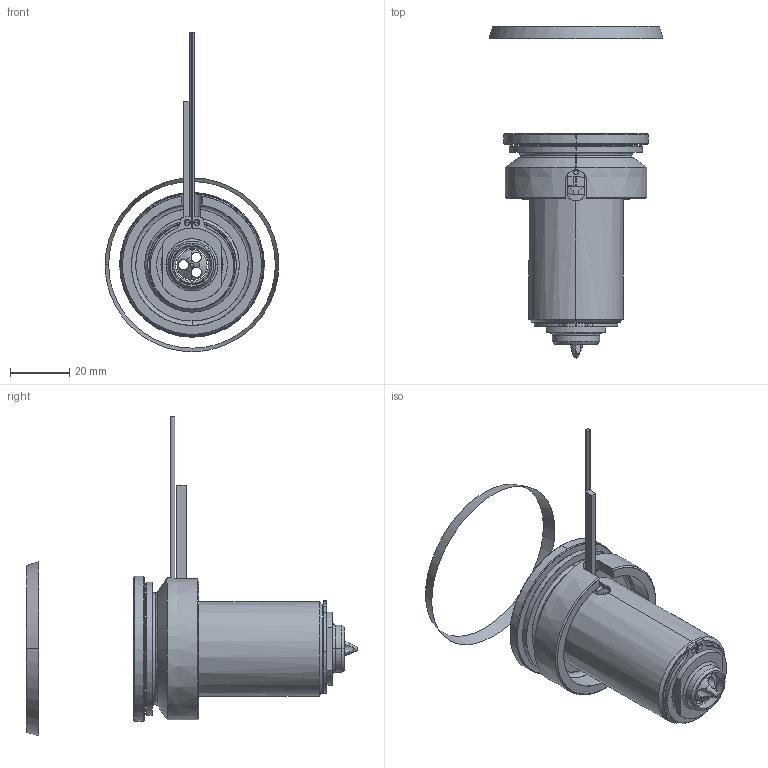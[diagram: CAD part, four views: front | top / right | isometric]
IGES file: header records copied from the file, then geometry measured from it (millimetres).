
Start section: SolidWorks IGES file using analytic representation for surfaces
Global section: file name: C:\Documents and Settings\ws-20\Desktop\TEM\UGEP5001-S-A-0 [Øf-1.18 ØC-12].IGS; native system: SolidWorks 2012; preprocessor: SolidWorks 2012; author: ws-20; date: 120426.095956; units: millimetre
Bounding box: 58.79 x 112.24 x 108.04 mm (x, y, z)
Surface area: 31808.8 mm2 (no closed solid volume)
Topology: 0 solids, 0 shells, 127 faces, 2443 edges, 2443 vertices
Faces by surface type: revolution 81, bspline 46
